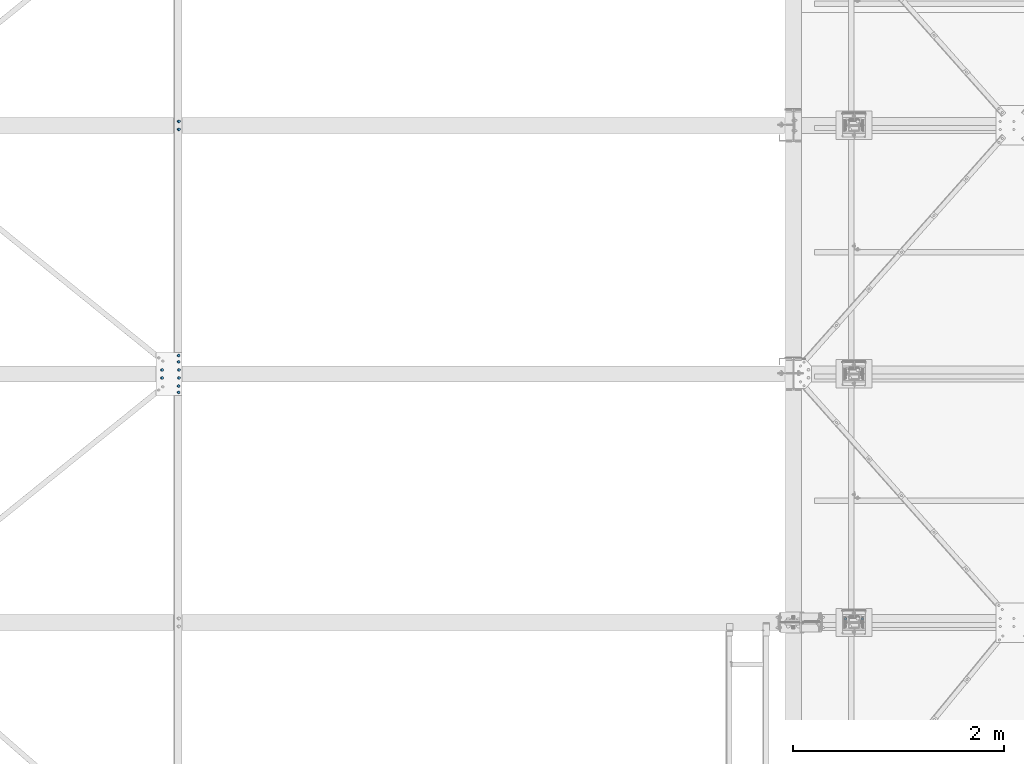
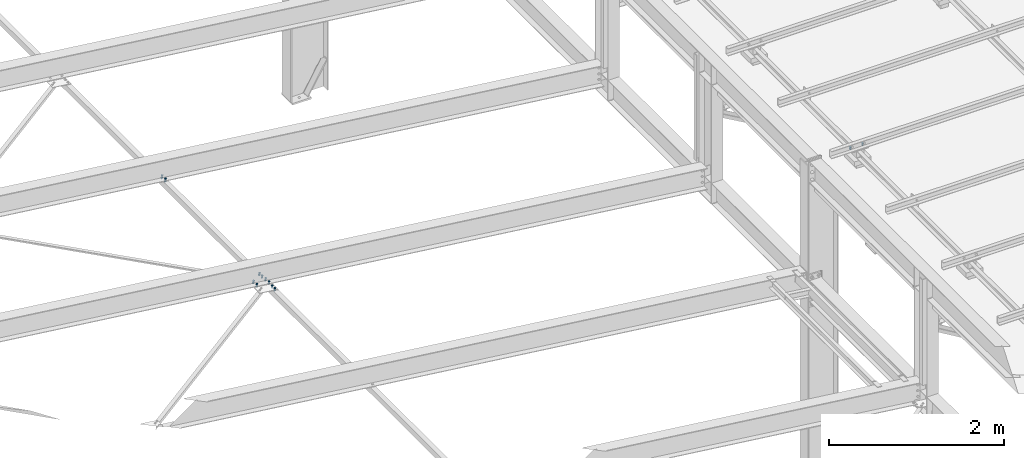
# One storey, part 322 of 3134: 5 mechanical fasteners, 4 elements without a shape of their own.
"""IFC2X3 building model written with IfcOpenShell, lengths in millimetres."""

import ifcopenshell
import ifcopenshell.guid

model = None  # the IFC model being written
_history = None  # IfcOwnerHistory: only IFC2X3 demands one
_inside = {}  # id of a spatial element -> (the spatial element, [elements in it])
_under = {}  # id of a project, library or spatial element -> (it, [spatial elements below it])
_declared = {}  # id of a project -> (the project, [libraries it declares])
_typed = {}  # id of a type object -> (the type object, [elements of that type])
_made_of = {}  # id of a material, layer set ... -> (it, [elements and type objects made of it])


def new_model(schema):
    """Start an empty IFC model of exactly this schema.

    Asked for "IFC4X3", IfcOpenShell would pick the latest addendum, in which some entities
    have other attributes; the version numbers below select the first issue.
    IFC2X3 requires an IfcOwnerHistory on every rooted entity: one is made here for all.
    """
    global model, _history
    if schema == "IFC4X3":
        model = ifcopenshell.file(schema_version=(4, 3, 0, 0))
    else:
        model = ifcopenshell.file(schema=schema)
    _inside.clear()
    _under.clear()
    _declared.clear()
    _typed.clear()
    _made_of.clear()
    _history = None
    if model.schema == "IFC2X3":
        org = make("IfcOrganization", Name="unknown")
        user = make(
            "IfcPersonAndOrganization",
            ThePerson=make("IfcPerson", FamilyName="unknown"),
            TheOrganization=org,
        )
        app = make(
            "IfcApplication",
            ApplicationDeveloper=org,
            Version="unknown",
            ApplicationFullName="unknown",
            ApplicationIdentifier="unknown",
        )
        _history = make(
            "IfcOwnerHistory",
            OwningUser=user,
            OwningApplication=app,
            ChangeAction="ADDED",
            CreationDate=0,
        )
    return model


def make(cls, **values):
    """One entity of the class cls with the attributes given. An attribute that is None is left unset."""
    return model.create_entity(
        cls, **{name: value for name, value in values.items() if value is not None}
    )


def rooted(cls, **values):
    """An entity with a GlobalId (a new one), such as an element, a storey or a relation."""
    return make(cls, GlobalId=ifcopenshell.guid.new(), OwnerHistory=_history, **values)


def si_unit(unit_type, name, prefix=None):
    """IfcSIUnit, for example si_unit("LENGTHUNIT", "METRE", prefix="MILLI")."""
    return make("IfcSIUnit", UnitType=unit_type, Prefix=prefix, Name=name)


def assignment(units):
    """IfcUnitAssignment: the units of a project."""
    return None if units is None else make("IfcUnitAssignment", Units=units)


def point(xyz):
    """IfcCartesianPoint."""
    return None if xyz is None else make("IfcCartesianPoint", Coordinates=xyz)


def direction(xyz):
    """IfcDirection."""
    return None if xyz is None else make("IfcDirection", DirectionRatios=xyz)


def frame(location, z_axis=None, x_axis=None):
    """IfcAxis2Placement3D, a coordinate frame: its origin and axes. An axis left out is left unset."""
    return make(
        "IfcAxis2Placement3D",
        Location=point(location),
        Axis=direction(z_axis),
        RefDirection=direction(x_axis),
    )


def origin_with_axes():
    """The frame at (0, 0, 0) with the z axis (0, 0, 1) and the x axis (1, 0, 0) written out."""
    return frame((0.0, 0.0, 0.0), z_axis=(0.0, 0.0, 1.0), x_axis=(1.0, 0.0, 0.0))


def place(relative_to, where):
    """IfcLocalPlacement: puts the frame where relative to a parent placement (None: the world)."""
    return make(
        "IfcLocalPlacement", PlacementRelTo=relative_to, RelativePlacement=where
    )


def context(
    kind, dimensions, precision=None, world=None, true_north=None, identifier=None
):
    """IfcGeometricRepresentationContext, for example the 3D "Model" context."""
    return make(
        "IfcGeometricRepresentationContext",
        ContextIdentifier=identifier,
        ContextType=kind,
        CoordinateSpaceDimension=dimensions,
        Precision=precision,
        WorldCoordinateSystem=world,
        TrueNorth=true_north,
    )


def subcontext(parent, identifier, kind, view, scale=None):
    """IfcGeometricRepresentationSubContext, for example "Body" below "Model"."""
    return make(
        "IfcGeometricRepresentationSubContext",
        ContextIdentifier=identifier,
        ContextType=kind,
        ParentContext=parent,
        TargetScale=scale,
        TargetView=view,
    )


def project(units=None, contexts=None):
    """IfcProject with its units and contexts."""
    return rooted(
        "IfcProject",
        Name="project",
        RepresentationContexts=contexts,
        UnitsInContext=assignment(units),
    )


def spatial(cls, under=None, at=None, **own):
    """A site, building, storey or space (cls), placed at a placement, below another one or the project."""
    s = rooted(cls, ObjectPlacement=at, **own)
    if under is not None:
        _under.setdefault(under.id(), (under, []))[1].append(s)
    return s


def faces_of(points, faces, orient=None, outer=None):
    """IfcFace entities. A face is a list of loops; a loop is a list of indices into points, from 0.

    orient and outer hold one flag for each loop. By default every Orientation is true, the
    first loop of a face is its IfcFaceOuterBound and the others are IfcFaceBound.
    """
    made = []
    for i, loops in enumerate(faces):
        bounds = []
        for j, loop in enumerate(loops):
            is_outer = j == 0 if outer is None else outer[i][j]
            bounds.append(
                make(
                    "IfcFaceOuterBound" if is_outer else "IfcFaceBound",
                    Bound=make("IfcPolyLoop", Polygon=[points[k] for k in loop]),
                    Orientation=True if orient is None else orient[i][j],
                )
            )
        made.append(make("IfcFace", Bounds=bounds))
    return made


def faceted_brep(points, faces, orient=None, outer=None, voids=None):
    """IfcFacetedBrep: a solid bounded by flat faces; with voids (closed shells), ...WithVoids."""
    shared = [point(p) for p in points]
    hull = make("IfcClosedShell", CfsFaces=faces_of(shared, faces, orient, outer))
    if voids is None:
        return make("IfcFacetedBrep", Outer=hull)
    return make(
        "IfcFacetedBrepWithVoids",
        Outer=hull,
        Voids=[
            make(cls, CfsFaces=faces_of(shared, fs, o, b)) for cls, fs, o, b in voids
        ],
    )


def shape(context_of_items, identifier, shape_type, items):
    """IfcShapeRepresentation: the items that make up one representation, for example the "Body"."""
    return make(
        "IfcShapeRepresentation",
        ContextOfItems=context_of_items,
        RepresentationIdentifier=identifier,
        RepresentationType=shape_type,
        Items=items,
    )


def source(mapping_origin, context_of_items, identifier, shape_type, items):
    """IfcRepresentationMap: a shape defined once, which mapped items show again and again."""
    return make(
        "IfcRepresentationMap",
        MappingOrigin=mapping_origin,
        MappedRepresentation=shape(context_of_items, identifier, shape_type, items),
    )


def transform(
    local_origin,
    x_axis=None,
    y_axis=None,
    z_axis=None,
    scale=None,
    scale2=None,
    scale3=None,
    uniform=True,
):
    """IfcCartesianTransformationOperator3D, or its non-uniform kind. x_axis, y_axis, z_axis: its Axis1, 2, 3."""
    if uniform:
        return make(
            "IfcCartesianTransformationOperator3D",
            Axis1=direction(x_axis),
            Axis2=direction(y_axis),
            LocalOrigin=point(local_origin),
            Scale=scale,
            Axis3=direction(z_axis),
        )
    return make(
        "IfcCartesianTransformationOperator3DnonUniform",
        Axis1=direction(x_axis),
        Axis2=direction(y_axis),
        LocalOrigin=point(local_origin),
        Scale=scale,
        Axis3=direction(z_axis),
        Scale2=scale2,
        Scale3=scale3,
    )


def mapped(mapping_source, mapping_target):
    """IfcMappedItem: shows the shape of a source again, moved by a transform."""
    return make(
        "IfcMappedItem", MappingSource=mapping_source, MappingTarget=mapping_target
    )


def material(Name=None, Category=None):
    """IfcMaterial."""
    return make("IfcMaterial", Name=Name, Category=Category)


def made_of(thing, what):
    """Note that an element or type object is made of a material, layer set ...; save() writes the relation."""
    if what is not None:
        _made_of.setdefault(what.id(), (what, []))[1].append(thing)
    return thing


def type_object(cls, material=None, **own):
    """A type object (cls), such as IfcWallType, which elements share."""
    return made_of(rooted(cls, **own), material)


def element(
    cls,
    number,
    at=None,
    inside=None,
    cuts=None,
    type_object=None,
    material=None,
    context=None,
    identifier="Body",
    shape_type=None,
    held_by="IfcProductDefinitionShape",
    body=None,
    shapes=None,
    **own,
):
    """One element of the class cls, such as IfcWall. Its Tag is "e" and its number.

    at: its placement. inside: the storey or other place that contains it. cuts: it is an
    opening in that element (IfcRelVoidsElement). A single representation is given by context,
    identifier, shape_type and body (its items); several are given by shapes. held_by: the class
    of the entity that holds the representations. save() writes the other relations.
    """
    e = rooted(cls, Tag="e%d" % number, ObjectPlacement=at, **own)
    if body is not None:
        shapes = [shape(context, identifier, shape_type, body)]
    if shapes is not None:
        e.Representation = make(held_by, Representations=shapes)
    if inside is not None:
        _inside.setdefault(inside.id(), (inside, []))[1].append(e)
    if cuts is not None:
        rooted(
            "IfcRelVoidsElement", RelatingBuildingElement=cuts, RelatedOpeningElement=e
        )
    if type_object is not None:
        _typed.setdefault(type_object.id(), (type_object, []))[1].append(e)
    return made_of(e, material)


def aggregate(whole, parts):
    """IfcRelAggregates: a whole, such as a stair, and the parts it consists of."""
    return rooted("IfcRelAggregates", RelatingObject=whole, RelatedObjects=parts)


def save(model, path):
    """Write the relations noted so far, then the file.

    IfcRelAggregates (storeys below a building ...), IfcRelContainedInSpatialStructure (elements
    in a storey), IfcRelDefinesByType, IfcRelAssociatesMaterial and IfcRelDeclares: one each for
    every whole, place, type object, material and project.
    """
    for whole, parts in _under.values():
        aggregate(whole, parts)
    for where, things in _inside.values():
        rooted(
            "IfcRelContainedInSpatialStructure",
            RelatedElements=things,
            RelatingStructure=where,
        )
    for kind, things in _typed.values():
        rooted("IfcRelDefinesByType", RelatedObjects=things, RelatingType=kind)
    for what, things in _made_of.values():
        rooted("IfcRelAssociatesMaterial", RelatedObjects=things, RelatingMaterial=what)
    for by, libraries in _declared.values():
        rooted("IfcRelDeclares", RelatingContext=by, RelatedDefinitions=libraries)
    model.write(path)


model = new_model("IFC2X3")

# Units and contexts
model_context = context("Model", 3, precision=1e-05, world=origin_with_axes())
body_context = subcontext(model_context, "Body", "Model", "MODEL_VIEW")
ifc_project = project(units=[si_unit("LENGTHUNIT", "METRE", prefix="MILLI"), si_unit("AREAUNIT", "SQUARE_METRE"), si_unit("VOLUMEUNIT", "CUBIC_METRE"), si_unit("MASSUNIT", "GRAM", prefix="KILO"), si_unit("TIMEUNIT", "SECOND"), si_unit("PLANEANGLEUNIT", "RADIAN"), si_unit("SOLIDANGLEUNIT", "STERADIAN"), si_unit("THERMODYNAMICTEMPERATUREUNIT", "DEGREE_CELSIUS"), si_unit("LUMINOUSINTENSITYUNIT", "LUMEN")], contexts=[model_context])

# Site, building, storey
site_placement = place(None, origin_with_axes())
site = spatial("IfcSite", under=ifc_project, at=site_placement, CompositionType="ELEMENT")
building_placement = place(site_placement, origin_with_axes())
building = spatial("IfcBuilding", under=site, at=building_placement, Name="Undefined", CompositionType="ELEMENT")
storey_placement = place(building_placement, origin_with_axes())
storey = spatial("IfcBuildingStorey", under=building, at=storey_placement, Name="Undefined", CompositionType="ELEMENT", Elevation=0.0)

# Assembly, mechanical fastener
assembly_1_placement = place(storey_placement, origin_with_axes())
assembly_1 = element("IfcElementAssembly", 1, at=assembly_1_placement, inside=storey, Name="300", AssemblyPlace="NOTDEFINED", PredefinedType="RIGID_FRAME")
ifc_material = material(Name="8.8")
mechanical_fastener_type = type_object("IfcMechanicalFastenerType", Name="Bolt assembly")
shared_shape_1 = source(origin_with_axes(), body_context, "Body", "Brep", [
    faceted_brep([(13.856406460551, -19.199990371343, 0.0), (6.92820323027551, -19.199990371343, 12.0), (-6.92820323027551, -19.199990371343, 12.0), (-13.856406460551, -19.199990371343, 1.69692038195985e-15), (-6.92820323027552, -19.199990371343, -12.0), (6.9282032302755, -19.199990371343, -12.0), (6.9282032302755, -9.19999037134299, -12.0), (-6.92820323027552, -9.19999037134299, -12.0), (-13.856406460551, -9.19999037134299, 1.69692038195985e-15), (-6.92820323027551, -9.19999037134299, 12.0), (6.92820323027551, -9.19999037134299, 12.0), (13.856406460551, -9.19999037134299, 0.0), (8.0, -9.19999037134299, 0.0), (6.92820323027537, -9.19999037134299, 4.00000000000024), (3.99999999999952, -9.19999037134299, 6.92820323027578), (-8.29068785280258e-13, -9.19999037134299, 8.0), (-4.00000000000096, -9.19999037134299, 6.92820323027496), (-6.9282032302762, -9.19999037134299, 3.99999999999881), (-8.0, -9.19999037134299, -1.65813757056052e-12), (-6.92820323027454, -9.19999037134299, -4.00000000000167), (-3.99999999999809, -9.19999037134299, -6.92820323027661), (2.47832457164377e-12, -9.19999037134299, -8.0), (4.00000000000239, -9.19999037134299, -6.92820323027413), (6.92820323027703, -9.19999037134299, -3.99999999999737), (6.92820323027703, 25.800009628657, -3.99999999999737), (4.00000000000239, 25.800009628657, -6.92820323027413), (2.47832457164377e-12, 25.800009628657, -8.0), (-3.99999999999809, 25.800009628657, -6.92820323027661), (-6.92820323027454, 25.800009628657, -4.00000000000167), (-8.0, 25.800009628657, -1.65813757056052e-12), (-6.9282032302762, 25.800009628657, 3.99999999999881), (-4.00000000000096, 25.800009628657, 6.92820323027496), (-8.29068785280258e-13, 25.800009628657, 8.0), (3.99999999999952, 25.800009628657, 6.92820323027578), (6.92820323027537, 25.800009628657, 4.00000000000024), (8.0, 25.800009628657, 0.0), (13.856406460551, 8.00000637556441, 0.0), (6.92820323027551, 8.00000637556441, 12.0), (-6.92820323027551, 8.00000637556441, 12.0), (-13.856406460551, 8.00000637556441, 1.69692038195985e-15), (-6.92820323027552, 8.00000637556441, -12.0), (6.9282032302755, 8.00000637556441, -12.0), (6.9282032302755, 21.0000063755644, -12.0), (-6.92820323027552, 21.0000063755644, -12.0), (-13.856406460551, 21.0000063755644, 1.69692038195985e-15), (-6.92820323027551, 21.0000063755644, 12.0), (6.92820323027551, 21.0000063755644, 12.0), (13.856406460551, 21.0000063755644, 0.0)], [[[0, 1, 2, 3, 4, 5]], [[6, 7, 8, 9, 10, 11]], [[0, 11, 10, 1]], [[1, 10, 9, 2]], [[2, 9, 8, 3]], [[3, 8, 7, 4]], [[4, 7, 6, 5]], [[5, 6, 11, 0]], [[12, 13, 14, 15, 16, 17, 18, 19, 20, 21, 22, 23]], [[24, 25, 26, 27, 28, 29, 30, 31, 32, 33, 34, 35]], [[12, 35, 34, 13]], [[13, 34, 33, 14]], [[14, 33, 32, 15]], [[15, 32, 31, 16]], [[16, 31, 30, 17]], [[17, 30, 29, 18]], [[18, 29, 28, 19]], [[19, 28, 27, 20]], [[20, 27, 26, 21]], [[21, 26, 25, 22]], [[22, 25, 24, 23]], [[23, 24, 35, 12]], [[36, 37, 38, 39, 40, 41]], [[42, 43, 44, 45, 46, 47]], [[36, 47, 46, 37]], [[37, 46, 45, 38]], [[38, 45, 44, 39]], [[39, 44, 43, 40]], [[40, 43, 42, 41]], [[41, 42, 47, 36]]]),
    faceted_brep([(9.0, -0.1, 0.0), (7.79422863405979, -0.1, 4.50000000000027), (4.49999999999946, -0.1, 7.79422863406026), (-9.3270238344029e-13, -0.1, 9.0), (-4.50000000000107, -0.1, 7.79422863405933), (-7.79422863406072, -0.1, 4.49999999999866), (-9.0, -0.1, -1.86540476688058e-12), (-7.79422863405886, -0.1, -4.50000000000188), (-4.49999999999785, -0.1, -7.79422863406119), (2.78811514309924e-12, -0.1, -9.0), (4.50000000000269, -0.1, -7.7942286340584), (7.79422863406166, -0.1, -4.49999999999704), (7.79422863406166, 8.00000000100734, -4.49999999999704), (4.50000000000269, 8.00000000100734, -7.7942286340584), (2.78811514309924e-12, 8.00000000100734, -9.0), (-4.49999999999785, 8.00000000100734, -7.79422863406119), (-7.79422863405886, 8.00000000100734, -4.50000000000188), (-9.0, 8.00000000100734, -1.86540476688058e-12), (-7.79422863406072, 8.00000000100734, 4.49999999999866), (-4.50000000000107, 8.00000000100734, 7.79422863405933), (-9.3270238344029e-13, 8.00000000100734, 9.0), (4.49999999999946, 8.00000000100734, 7.79422863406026), (7.79422863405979, 8.00000000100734, 4.50000000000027), (9.0, 8.00000000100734, 0.0), (9.0, -9.09999037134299, 0.0), (7.79422863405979, -9.09999037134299, 4.50000000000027), (4.49999999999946, -9.09999037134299, 7.79422863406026), (-9.3270238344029e-13, -9.09999037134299, 9.0), (-4.50000000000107, -9.09999037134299, 7.79422863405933), (-7.79422863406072, -9.09999037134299, 4.49999999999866), (-9.0, -9.09999037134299, -1.86540476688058e-12), (-7.79422863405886, -9.09999037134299, -4.50000000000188), (-4.49999999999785, -9.09999037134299, -7.79422863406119), (2.78811514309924e-12, -9.09999037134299, -9.0), (4.50000000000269, -9.09999037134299, -7.7942286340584), (7.79422863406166, -9.09999037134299, -4.49999999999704), (7.79422863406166, 0.100000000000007, -4.49999999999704), (4.50000000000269, 0.100000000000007, -7.7942286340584), (2.78811514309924e-12, 0.100000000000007, -9.0), (-4.49999999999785, 0.100000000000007, -7.79422863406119), (-7.79422863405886, 0.100000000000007, -4.50000000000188), (-9.0, 0.100000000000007, -1.86540476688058e-12), (-7.79422863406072, 0.100000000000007, 4.49999999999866), (-4.50000000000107, 0.100000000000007, 7.79422863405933), (-9.3270238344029e-13, 0.100000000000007, 9.0), (4.49999999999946, 0.100000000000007, 7.79422863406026), (7.79422863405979, 0.100000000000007, 4.50000000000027), (9.0, 0.100000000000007, 0.0)], [[[0, 1, 2, 3, 4, 5, 6, 7, 8, 9, 10, 11]], [[12, 13, 14, 15, 16, 17, 18, 19, 20, 21, 22, 23]], [[0, 23, 22, 1]], [[1, 22, 21, 2]], [[2, 21, 20, 3]], [[3, 20, 19, 4]], [[4, 19, 18, 5]], [[5, 18, 17, 6]], [[6, 17, 16, 7]], [[7, 16, 15, 8]], [[8, 15, 14, 9]], [[9, 14, 13, 10]], [[10, 13, 12, 11]], [[11, 12, 23, 0]], [[24, 25, 26, 27, 28, 29, 30, 31, 32, 33, 34, 35]], [[36, 37, 38, 39, 40, 41, 42, 43, 44, 45, 46, 47]], [[24, 47, 46, 25]], [[25, 46, 45, 26]], [[26, 45, 44, 27]], [[27, 44, 43, 28]], [[28, 43, 42, 29]], [[29, 42, 41, 30]], [[30, 41, 40, 31]], [[31, 40, 39, 32]], [[32, 39, 38, 33]], [[33, 38, 37, 34]], [[34, 37, 36, 35]], [[35, 36, 47, 24]]]),
])
mechanical_fastener_1_placement = place(assembly_1_placement, frame((61633.5751064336, 9972.0, 4816.43281405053), z_axis=(-0.992623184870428, 0.0, 0.121240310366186), x_axis=(0.0, 1.0, 0.0)))
mechanical_fastener_1 = element("IfcMechanicalFastener", 2, at=mechanical_fastener_1_placement, type_object=mechanical_fastener_type, material=ifc_material, Name="Bolt assembly", NominalDiameter=16.0, NominalLength=35.0, context=body_context, shape_type="MappedRepresentation", body=[
    mapped(shared_shape_1, transform((0.0, -5.32963895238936e-10, -79.9999999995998))),
    mapped(shared_shape_1, transform((76.0, -5.32963895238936e-10, -79.9999999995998))),
    mapped(shared_shape_1, transform((0.0, 5.3114490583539e-10, 79.9999999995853))),
    mapped(shared_shape_1, transform((76.0, 5.3114490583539e-10, 79.9999999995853))),
])
aggregate(assembly_1, [mechanical_fastener_1])

assembly_2_placement = place(storey_placement, origin_with_axes())
assembly_2 = element("IfcElementAssembly", 3, at=assembly_2_placement, inside=storey, AssemblyPlace="NOTDEFINED", PredefinedType="RIGID_FRAME")
shared_shape_2 = source(origin_with_axes(), body_context, "Body", "Brep", [
    faceted_brep([(10.9696551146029, -14.0, 0.0), (5.48482755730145, -14.0, 9.5), (-5.48482755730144, -14.0, 9.5), (-10.9696551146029, -14.0, 1.34339530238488e-15), (-5.48482755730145, -14.0, -9.5), (5.48482755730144, -14.0, -9.50000000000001), (5.48482755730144, -6.0, -9.50000000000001), (-5.48482755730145, -6.0, -9.5), (-10.9696551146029, -6.0, 1.34339530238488e-15), (-5.48482755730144, -6.0, 9.5), (5.48482755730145, -6.0, 9.5), (10.9696551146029, -6.0, 0.0), (6.0, -6.0, 0.0), (5.19615242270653, -6.0, 3.00000000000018), (2.99999999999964, -6.0, 5.19615242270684), (-6.21801588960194e-13, -6.0, 6.0), (-3.00000000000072, -6.0, 5.19615242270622), (-5.19615242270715, -6.0, 2.9999999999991), (-6.0, -6.0, -1.24360317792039e-12), (-5.19615242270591, -6.0, -3.00000000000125), (-2.99999999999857, -6.0, -5.19615242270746), (1.85874342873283e-12, -6.0, -6.0), (3.00000000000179, -6.0, -5.1961524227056), (5.19615242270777, -6.0, -2.99999999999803), (5.19615242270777, 24.0, -2.99999999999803), (3.00000000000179, 24.0, -5.1961524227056), (1.85874342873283e-12, 24.0, -6.0), (-2.99999999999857, 24.0, -5.19615242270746), (-5.19615242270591, 24.0, -3.00000000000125), (-6.0, 24.0, -1.24360317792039e-12), (-5.19615242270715, 24.0, 2.9999999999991), (-3.00000000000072, 24.0, 5.19615242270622), (-6.21801588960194e-13, 24.0, 6.0), (2.99999999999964, 24.0, 5.19615242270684), (5.19615242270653, 24.0, 3.00000000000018), (6.0, 24.0, 0.0), (10.9696551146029, 6.00000000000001, 0.0), (5.48482755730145, 6.00000000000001, 9.5), (-5.48482755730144, 6.00000000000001, 9.5), (-10.9696551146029, 6.00000000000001, 1.34339530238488e-15), (-5.48482755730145, 6.00000000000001, -9.5), (5.48482755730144, 6.00000000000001, -9.50000000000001), (5.48482755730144, 16.0, -9.50000000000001), (-5.48482755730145, 16.0, -9.5), (-10.9696551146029, 16.0, 1.34339530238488e-15), (-5.48482755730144, 16.0, 9.5), (5.48482755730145, 16.0, 9.5), (10.9696551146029, 16.0, 0.0)], [[[0, 1, 2, 3, 4, 5]], [[6, 7, 8, 9, 10, 11]], [[0, 11, 10, 1]], [[1, 10, 9, 2]], [[2, 9, 8, 3]], [[3, 8, 7, 4]], [[4, 7, 6, 5]], [[5, 6, 11, 0]], [[12, 13, 14, 15, 16, 17, 18, 19, 20, 21, 22, 23]], [[24, 25, 26, 27, 28, 29, 30, 31, 32, 33, 34, 35]], [[12, 35, 34, 13]], [[13, 34, 33, 14]], [[14, 33, 32, 15]], [[15, 32, 31, 16]], [[16, 31, 30, 17]], [[17, 30, 29, 18]], [[18, 29, 28, 19]], [[19, 28, 27, 20]], [[20, 27, 26, 21]], [[21, 26, 25, 22]], [[22, 25, 24, 23]], [[23, 24, 35, 12]], [[36, 37, 38, 39, 40, 41]], [[42, 43, 44, 45, 46, 47]], [[36, 47, 46, 37]], [[37, 46, 45, 38]], [[38, 45, 44, 39]], [[39, 44, 43, 40]], [[40, 43, 42, 41]], [[41, 42, 47, 36]]]),
    faceted_brep([(7.0, -0.1, 0.0), (6.06217782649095, -0.1, 3.50000000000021), (3.49999999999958, -0.1, 6.06217782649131), (-7.25435187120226e-13, -0.1, 7.0), (-3.50000000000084, -0.1, 6.06217782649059), (-6.06217782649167, -0.1, 3.49999999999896), (-7.0, -0.1, -1.45087037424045e-12), (-6.06217782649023, -0.1, -3.50000000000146), (-3.49999999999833, -0.1, -6.06217782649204), (2.1685340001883e-12, -0.1, -7.0), (3.50000000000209, -0.1, -6.06217782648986), (6.0621778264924, -0.1, -3.4999999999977), (6.0621778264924, 6.00000000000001, -3.4999999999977), (3.50000000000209, 6.00000000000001, -6.06217782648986), (2.1685340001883e-12, 6.00000000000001, -7.0), (-3.49999999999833, 6.00000000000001, -6.06217782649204), (-6.06217782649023, 6.00000000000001, -3.50000000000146), (-7.0, 6.00000000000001, -1.45087037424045e-12), (-6.06217782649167, 6.00000000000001, 3.49999999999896), (-3.50000000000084, 6.00000000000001, 6.06217782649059), (-7.25435187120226e-13, 6.00000000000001, 7.0), (3.49999999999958, 6.00000000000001, 6.06217782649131), (6.06217782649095, 6.00000000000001, 3.50000000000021), (7.0, 6.00000000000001, 0.0), (7.0, -5.9, 0.0), (6.06217782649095, -5.9, 3.50000000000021), (3.49999999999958, -5.9, 6.06217782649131), (-7.25435187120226e-13, -5.9, 7.0), (-3.50000000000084, -5.9, 6.06217782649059), (-6.06217782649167, -5.9, 3.49999999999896), (-7.0, -5.9, -1.45087037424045e-12), (-6.06217782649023, -5.9, -3.50000000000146), (-3.49999999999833, -5.9, -6.06217782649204), (2.1685340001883e-12, -5.9, -7.0), (3.50000000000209, -5.9, -6.06217782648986), (6.0621778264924, -5.9, -3.4999999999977), (6.0621778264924, 0.0999999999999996, -3.4999999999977), (3.50000000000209, 0.0999999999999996, -6.06217782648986), (2.1685340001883e-12, 0.0999999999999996, -7.0), (-3.49999999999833, 0.0999999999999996, -6.06217782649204), (-6.06217782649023, 0.0999999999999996, -3.50000000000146), (-7.0, 0.0999999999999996, -1.45087037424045e-12), (-6.06217782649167, 0.0999999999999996, 3.49999999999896), (-3.50000000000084, 0.0999999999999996, 6.06217782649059), (-7.25435187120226e-13, 0.0999999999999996, 7.0), (3.49999999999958, 0.0999999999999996, 6.06217782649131), (6.06217782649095, 0.0999999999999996, 3.50000000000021), (7.0, 0.0999999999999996, 0.0)], [[[0, 1, 2, 3, 4, 5, 6, 7, 8, 9, 10, 11]], [[12, 13, 14, 15, 16, 17, 18, 19, 20, 21, 22, 23]], [[0, 23, 22, 1]], [[1, 22, 21, 2]], [[2, 21, 20, 3]], [[3, 20, 19, 4]], [[4, 19, 18, 5]], [[5, 18, 17, 6]], [[6, 17, 16, 7]], [[7, 16, 15, 8]], [[8, 15, 14, 9]], [[9, 14, 13, 10]], [[10, 13, 12, 11]], [[11, 12, 23, 0]], [[24, 25, 26, 27, 28, 29, 30, 31, 32, 33, 34, 35]], [[36, 37, 38, 39, 40, 41, 42, 43, 44, 45, 46, 47]], [[24, 47, 46, 25]], [[25, 46, 45, 26]], [[26, 45, 44, 27]], [[27, 44, 43, 28]], [[28, 43, 42, 29]], [[29, 42, 41, 30]], [[30, 41, 40, 31]], [[31, 40, 39, 32]], [[32, 39, 38, 33]], [[33, 38, 37, 34]], [[34, 37, 36, 35]], [[35, 36, 47, 24]]]),
])
mechanical_fastener_2_placement = place(assembly_2_placement, frame((68125.0, 7685.0, 5850.0), z_axis=(1.0, 0.0, 0.0), x_axis=(0.0, -1.0, 0.0)))
mechanical_fastener_2 = element("IfcMechanicalFastener", 4, at=mechanical_fastener_2_placement, type_object=mechanical_fastener_type, material=ifc_material, Name="Bolt assembly", NominalDiameter=12.0, NominalLength=30.0, context=body_context, shape_type="MappedRepresentation", body=[
    mapped(shared_shape_2, transform((0.0, -5.32963895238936e-10, -79.9999999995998))),
    mapped(shared_shape_2, transform((0.0, 5.3114490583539e-10, 79.9999999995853))),
])
aggregate(assembly_2, [mechanical_fastener_2])

assembly_3_placement = place(storey_placement, origin_with_axes())
assembly_3 = element("IfcElementAssembly", 5, at=assembly_3_placement, inside=storey, AssemblyPlace="NOTDEFINED", PredefinedType="RIGID_FRAME")
shared_shape_3 = source(origin_with_axes(), body_context, "Body", "Brep", [
    faceted_brep([(13.856406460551, -19.199990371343, 0.0), (6.92820323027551, -19.199990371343, 12.0), (-6.92820323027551, -19.199990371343, 12.0), (-13.856406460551, -19.199990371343, 1.69692038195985e-15), (-6.92820323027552, -19.199990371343, -12.0), (6.9282032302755, -19.199990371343, -12.0), (6.9282032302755, -9.19999037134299, -12.0), (-6.92820323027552, -9.19999037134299, -12.0), (-13.856406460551, -9.19999037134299, 1.69692038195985e-15), (-6.92820323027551, -9.19999037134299, 12.0), (6.92820323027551, -9.19999037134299, 12.0), (13.856406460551, -9.19999037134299, 0.0), (8.0, -9.19999037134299, 0.0), (6.92820323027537, -9.19999037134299, 4.00000000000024), (3.99999999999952, -9.19999037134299, 6.92820323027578), (-8.29068785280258e-13, -9.19999037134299, 8.0), (-4.00000000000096, -9.19999037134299, 6.92820323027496), (-6.9282032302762, -9.19999037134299, 3.99999999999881), (-8.0, -9.19999037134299, -1.65813757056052e-12), (-6.92820323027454, -9.19999037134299, -4.00000000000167), (-3.99999999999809, -9.19999037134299, -6.92820323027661), (2.47832457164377e-12, -9.19999037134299, -8.0), (4.00000000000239, -9.19999037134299, -6.92820323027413), (6.92820323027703, -9.19999037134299, -3.99999999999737), (6.92820323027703, 35.8000002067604, -3.99999999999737), (4.00000000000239, 35.8000002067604, -6.92820323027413), (2.47832457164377e-12, 35.8000002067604, -8.0), (-3.99999999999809, 35.8000002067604, -6.92820323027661), (-6.92820323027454, 35.8000002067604, -4.00000000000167), (-8.0, 35.8000002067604, -1.65813757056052e-12), (-6.9282032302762, 35.8000002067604, 3.99999999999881), (-4.00000000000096, 35.8000002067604, 6.92820323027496), (-8.29068785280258e-13, 35.8000002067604, 8.0), (3.99999999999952, 35.8000002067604, 6.92820323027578), (6.92820323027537, 35.8000002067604, 4.00000000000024), (8.0, 35.8000002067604, 0.0), (13.856406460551, 14.9999995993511, 0.0), (6.92820323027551, 14.9999995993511, 12.0), (-6.92820323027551, 14.9999995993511, 12.0), (-13.856406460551, 14.9999995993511, 1.69692038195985e-15), (-6.92820323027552, 14.9999995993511, -12.0), (6.9282032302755, 14.9999995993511, -12.0), (6.9282032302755, 27.9999995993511, -12.0), (-6.92820323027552, 27.9999995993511, -12.0), (-13.856406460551, 27.9999995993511, 1.69692038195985e-15), (-6.92820323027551, 27.9999995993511, 12.0), (6.92820323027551, 27.9999995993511, 12.0), (13.856406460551, 27.9999995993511, 0.0)], [[[0, 1, 2, 3, 4, 5]], [[6, 7, 8, 9, 10, 11]], [[0, 11, 10, 1]], [[1, 10, 9, 2]], [[2, 9, 8, 3]], [[3, 8, 7, 4]], [[4, 7, 6, 5]], [[5, 6, 11, 0]], [[12, 13, 14, 15, 16, 17, 18, 19, 20, 21, 22, 23]], [[24, 25, 26, 27, 28, 29, 30, 31, 32, 33, 34, 35]], [[12, 35, 34, 13]], [[13, 34, 33, 14]], [[14, 33, 32, 15]], [[15, 32, 31, 16]], [[16, 31, 30, 17]], [[17, 30, 29, 18]], [[18, 29, 28, 19]], [[19, 28, 27, 20]], [[20, 27, 26, 21]], [[21, 26, 25, 22]], [[22, 25, 24, 23]], [[23, 24, 35, 12]], [[36, 37, 38, 39, 40, 41]], [[42, 43, 44, 45, 46, 47]], [[36, 47, 46, 37]], [[37, 46, 45, 38]], [[38, 45, 44, 39]], [[39, 44, 43, 40]], [[40, 43, 42, 41]], [[41, 42, 47, 36]]]),
    faceted_brep([(9.0, -9.09999037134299, 0.0), (7.79422863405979, -9.09999037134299, 4.50000000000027), (4.49999999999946, -9.09999037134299, 7.79422863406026), (-9.3270238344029e-13, -9.09999037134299, 9.0), (-4.50000000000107, -9.09999037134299, 7.79422863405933), (-7.79422863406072, -9.09999037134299, 4.49999999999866), (-9.0, -9.09999037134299, -1.86540476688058e-12), (-7.79422863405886, -9.09999037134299, -4.50000000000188), (-4.49999999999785, -9.09999037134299, -7.79422863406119), (2.78811514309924e-12, -9.09999037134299, -9.0), (4.50000000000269, -9.09999037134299, -7.7942286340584), (7.79422863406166, -9.09999037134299, -4.49999999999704), (7.79422863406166, 0.100000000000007, -4.49999999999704), (4.50000000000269, 0.100000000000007, -7.7942286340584), (2.78811514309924e-12, 0.100000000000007, -9.0), (-4.49999999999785, 0.100000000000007, -7.79422863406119), (-7.79422863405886, 0.100000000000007, -4.50000000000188), (-9.0, 0.100000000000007, -1.86540476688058e-12), (-7.79422863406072, 0.100000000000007, 4.49999999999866), (-4.50000000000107, 0.100000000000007, 7.79422863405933), (-9.3270238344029e-13, 0.100000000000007, 9.0), (4.49999999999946, 0.100000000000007, 7.79422863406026), (7.79422863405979, 0.100000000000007, 4.50000000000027), (9.0, 0.100000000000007, 0.0), (9.0, 7.9, 0.0), (7.79422863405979, 7.9, 4.50000000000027), (4.49999999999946, 7.9, 7.79422863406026), (-9.3270238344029e-13, 7.9, 9.0), (-4.50000000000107, 7.9, 7.79422863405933), (-7.79422863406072, 7.9, 4.49999999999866), (-9.0, 7.9, -1.86540476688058e-12), (-7.79422863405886, 7.9, -4.50000000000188), (-4.49999999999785, 7.9, -7.79422863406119), (2.78811514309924e-12, 7.9, -9.0), (4.50000000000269, 7.9, -7.7942286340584), (7.79422863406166, 7.9, -4.49999999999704), (7.79422863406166, 14.9999995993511, -4.49999999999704), (4.50000000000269, 14.9999995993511, -7.7942286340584), (2.78811514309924e-12, 14.9999995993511, -9.0), (-4.49999999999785, 14.9999995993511, -7.79422863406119), (-7.79422863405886, 14.9999995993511, -4.50000000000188), (-9.0, 14.9999995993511, -1.86540476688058e-12), (-7.79422863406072, 14.9999995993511, 4.49999999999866), (-4.50000000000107, 14.9999995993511, 7.79422863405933), (-9.3270238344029e-13, 14.9999995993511, 9.0), (4.49999999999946, 14.9999995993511, 7.79422863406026), (7.79422863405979, 14.9999995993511, 4.50000000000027), (9.0, 14.9999995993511, 0.0)], [[[0, 1, 2, 3, 4, 5, 6, 7, 8, 9, 10, 11]], [[12, 13, 14, 15, 16, 17, 18, 19, 20, 21, 22, 23]], [[0, 23, 22, 1]], [[1, 22, 21, 2]], [[2, 21, 20, 3]], [[3, 20, 19, 4]], [[4, 19, 18, 5]], [[5, 18, 17, 6]], [[6, 17, 16, 7]], [[7, 16, 15, 8]], [[8, 15, 14, 9]], [[9, 14, 13, 10]], [[10, 13, 12, 11]], [[11, 12, 23, 0]], [[24, 25, 26, 27, 28, 29, 30, 31, 32, 33, 34, 35]], [[36, 37, 38, 39, 40, 41, 42, 43, 44, 45, 46, 47]], [[24, 47, 46, 25]], [[25, 46, 45, 26]], [[26, 45, 44, 27]], [[27, 44, 43, 28]], [[28, 43, 42, 29]], [[29, 42, 41, 30]], [[30, 41, 40, 31]], [[31, 40, 39, 32]], [[32, 39, 38, 33]], [[33, 38, 37, 34]], [[34, 37, 36, 35]], [[35, 36, 47, 24]]]),
])
mechanical_fastener_3_placement = place(assembly_3_placement, frame((61712.984961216, 12332.0, 4806.73358921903), z_axis=(-0.992623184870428, 0.0, 0.121240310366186), x_axis=(0.0, 1.0, 0.0)))
mechanical_fastener_3 = element("IfcMechanicalFastener", 6, at=mechanical_fastener_3_placement, type_object=mechanical_fastener_type, material=ifc_material, Name="Bolt assembly", NominalDiameter=16.0, NominalLength=45.0, context=body_context, shape_type="MappedRepresentation", body=[
    mapped(shared_shape_3, transform((0.0, 0.0, 0.0))),
    mapped(shared_shape_3, transform((76.0, 0.0, 0.0))),
])
aggregate(assembly_3, [mechanical_fastener_3])

# Assembly, mechanical fasteners
assembly_4_placement = place(storey_placement, origin_with_axes())
assembly_4 = element("IfcElementAssembly", 7, at=assembly_4_placement, inside=storey, Name="PL8", AssemblyPlace="NOTDEFINED", PredefinedType="RIGID_FRAME")
shared_shape_4 = source(origin_with_axes(), body_context, "Body", "Brep", [
    faceted_brep([(13.856406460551, -10.0, 0.0), (6.92820323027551, -10.0, 12.0), (-6.92820323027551, -10.0, 12.0), (-13.856406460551, -10.0, 1.69692038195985e-15), (-6.92820323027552, -10.0, -12.0), (6.9282032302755, -10.0, -12.0), (6.9282032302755, 0.0, -12.0), (-6.92820323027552, 0.0, -12.0), (-13.856406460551, 0.0, 1.69692038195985e-15), (-6.92820323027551, 0.0, 12.0), (6.92820323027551, 0.0, 12.0), (13.856406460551, 0.0, 0.0), (8.0, 0.0, 0.0), (6.92820323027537, 0.0, 4.00000000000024), (3.99999999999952, 0.0, 6.92820323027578), (-8.29068785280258e-13, 0.0, 8.0), (-4.00000000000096, 0.0, 6.92820323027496), (-6.9282032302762, 0.0, 3.99999999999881), (-8.0, 0.0, -1.65813757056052e-12), (-6.92820323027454, 0.0, -4.00000000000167), (-3.99999999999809, 0.0, -6.92820323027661), (2.47832457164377e-12, 0.0, -8.0), (4.00000000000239, 0.0, -6.92820323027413), (6.92820323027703, 0.0, -3.99999999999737), (6.92820323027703, 35.0000000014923, -3.99999999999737), (4.00000000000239, 35.0000000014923, -6.92820323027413), (2.47832457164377e-12, 35.0000000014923, -8.0), (-3.99999999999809, 35.0000000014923, -6.92820323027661), (-6.92820323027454, 35.0000000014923, -4.00000000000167), (-8.0, 35.0000000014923, -1.65813757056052e-12), (-6.9282032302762, 35.0000000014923, 3.99999999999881), (-4.00000000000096, 35.0000000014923, 6.92820323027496), (-8.29068785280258e-13, 35.0000000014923, 8.0), (3.99999999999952, 35.0000000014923, 6.92820323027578), (6.92820323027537, 35.0000000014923, 4.00000000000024), (8.0, 35.0000000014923, 0.0), (13.856406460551, 14.9999995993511, 0.0), (6.92820323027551, 14.9999995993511, 12.0), (-6.92820323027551, 14.9999995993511, 12.0), (-13.856406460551, 14.9999995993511, 1.69692038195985e-15), (-6.92820323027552, 14.9999995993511, -12.0), (6.9282032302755, 14.9999995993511, -12.0), (6.9282032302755, 27.9999995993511, -12.0), (-6.92820323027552, 27.9999995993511, -12.0), (-13.856406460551, 27.9999995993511, 1.69692038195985e-15), (-6.92820323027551, 27.9999995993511, 12.0), (6.92820323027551, 27.9999995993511, 12.0), (13.856406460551, 27.9999995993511, 0.0)], [[[0, 1, 2, 3, 4, 5]], [[6, 7, 8, 9, 10, 11]], [[0, 11, 10, 1]], [[1, 10, 9, 2]], [[2, 9, 8, 3]], [[3, 8, 7, 4]], [[4, 7, 6, 5]], [[5, 6, 11, 0]], [[12, 13, 14, 15, 16, 17, 18, 19, 20, 21, 22, 23]], [[24, 25, 26, 27, 28, 29, 30, 31, 32, 33, 34, 35]], [[12, 35, 34, 13]], [[13, 34, 33, 14]], [[14, 33, 32, 15]], [[15, 32, 31, 16]], [[16, 31, 30, 17]], [[17, 30, 29, 18]], [[18, 29, 28, 19]], [[19, 28, 27, 20]], [[20, 27, 26, 21]], [[21, 26, 25, 22]], [[22, 25, 24, 23]], [[23, 24, 35, 12]], [[36, 37, 38, 39, 40, 41]], [[42, 43, 44, 45, 46, 47]], [[36, 47, 46, 37]], [[37, 46, 45, 38]], [[38, 45, 44, 39]], [[39, 44, 43, 40]], [[40, 43, 42, 41]], [[41, 42, 47, 36]]]),
    faceted_brep([(9.0, 7.9, 0.0), (7.79422863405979, 7.9, 4.50000000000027), (4.49999999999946, 7.9, 7.79422863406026), (-9.3270238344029e-13, 7.9, 9.0), (-4.50000000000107, 7.9, 7.79422863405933), (-7.79422863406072, 7.9, 4.49999999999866), (-9.0, 7.9, -1.86540476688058e-12), (-7.79422863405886, 7.9, -4.50000000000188), (-4.49999999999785, 7.9, -7.79422863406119), (2.78811514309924e-12, 7.9, -9.0), (4.50000000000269, 7.9, -7.7942286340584), (7.79422863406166, 7.9, -4.49999999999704), (7.79422863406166, 14.9999995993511, -4.49999999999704), (4.50000000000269, 14.9999995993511, -7.7942286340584), (2.78811514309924e-12, 14.9999995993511, -9.0), (-4.49999999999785, 14.9999995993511, -7.79422863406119), (-7.79422863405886, 14.9999995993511, -4.50000000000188), (-9.0, 14.9999995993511, -1.86540476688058e-12), (-7.79422863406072, 14.9999995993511, 4.49999999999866), (-4.50000000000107, 14.9999995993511, 7.79422863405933), (-9.3270238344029e-13, 14.9999995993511, 9.0), (4.49999999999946, 14.9999995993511, 7.79422863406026), (7.79422863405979, 14.9999995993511, 4.50000000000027), (9.0, 14.9999995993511, 0.0), (9.0, 0.100000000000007, 0.0), (7.79422863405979, 0.100000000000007, 4.50000000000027), (4.49999999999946, 0.100000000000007, 7.79422863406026), (-9.3270238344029e-13, 0.100000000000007, 9.0), (-4.50000000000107, 0.100000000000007, 7.79422863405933), (-7.79422863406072, 0.100000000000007, 4.49999999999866), (-9.0, 0.100000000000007, -1.86540476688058e-12), (-7.79422863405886, 0.100000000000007, -4.50000000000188), (-4.49999999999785, 0.100000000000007, -7.79422863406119), (2.78811514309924e-12, 0.100000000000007, -9.0), (4.50000000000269, 0.100000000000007, -7.7942286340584), (7.79422863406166, 0.100000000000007, -4.49999999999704), (7.79422863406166, 8.1, -4.49999999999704), (4.50000000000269, 8.1, -7.7942286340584), (2.78811514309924e-12, 8.1, -9.0), (-4.49999999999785, 8.1, -7.79422863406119), (-7.79422863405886, 8.1, -4.50000000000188), (-9.0, 8.1, -1.86540476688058e-12), (-7.79422863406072, 8.1, 4.49999999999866), (-4.50000000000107, 8.1, 7.79422863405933), (-9.3270238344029e-13, 8.1, 9.0), (4.49999999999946, 8.1, 7.79422863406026), (7.79422863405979, 8.1, 4.50000000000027), (9.0, 8.1, 0.0)], [[[0, 1, 2, 3, 4, 5, 6, 7, 8, 9, 10, 11]], [[12, 13, 14, 15, 16, 17, 18, 19, 20, 21, 22, 23]], [[0, 23, 22, 1]], [[1, 22, 21, 2]], [[2, 21, 20, 3]], [[3, 20, 19, 4]], [[4, 19, 18, 5]], [[5, 18, 17, 6]], [[6, 17, 16, 7]], [[7, 16, 15, 8]], [[8, 15, 14, 9]], [[9, 14, 13, 10]], [[10, 13, 12, 11]], [[11, 12, 23, 0]], [[24, 25, 26, 27, 28, 29, 30, 31, 32, 33, 34, 35]], [[36, 37, 38, 39, 40, 41, 42, 43, 44, 45, 46, 47]], [[24, 47, 46, 25]], [[25, 46, 45, 26]], [[26, 45, 44, 27]], [[27, 44, 43, 28]], [[28, 43, 42, 29]], [[29, 42, 41, 30]], [[30, 41, 40, 31]], [[31, 40, 39, 32]], [[32, 39, 38, 33]], [[33, 38, 37, 34]], [[34, 37, 36, 35]], [[35, 36, 47, 24]]]),
])
mechanical_fastener_4_placement = place(assembly_4_placement, frame((61712.9849612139, 9894.99999999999, 4806.73358922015), z_axis=(0.992623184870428, 0.0, -0.121240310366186), x_axis=(0.0, -1.0, 0.0)))
mechanical_fastener_4 = element("IfcMechanicalFastener", 8, at=mechanical_fastener_4_placement, type_object=mechanical_fastener_type, material=ifc_material, Name="Bolt assembly", NominalDiameter=16.0, NominalLength=35.0, context=body_context, shape_type="MappedRepresentation", body=[
    mapped(shared_shape_4, transform((0.0, 0.0, 0.0))),
    mapped(shared_shape_4, transform((59.9999999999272, 0.0, 5.40239852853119e-10))),
])
mechanical_fastener_5_placement = place(assembly_4_placement, frame((61712.9849612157, 10185.0, 4806.73358921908), z_axis=(0.992623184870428, 0.0, -0.121240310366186), x_axis=(0.0, -1.0, 0.0)))
mechanical_fastener_5 = element("IfcMechanicalFastener", 9, at=mechanical_fastener_5_placement, type_object=mechanical_fastener_type, material=ifc_material, Name="Bolt assembly", NominalDiameter=16.0, NominalLength=35.0, context=body_context, shape_type="MappedRepresentation", body=[
    mapped(shared_shape_4, transform((0.0, 0.0, 0.0))),
    mapped(shared_shape_4, transform((59.9999999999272, 0.0, 5.40239852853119e-10))),
])
aggregate(assembly_4, [mechanical_fastener_4, mechanical_fastener_5])

save(model, "model.ifc")
